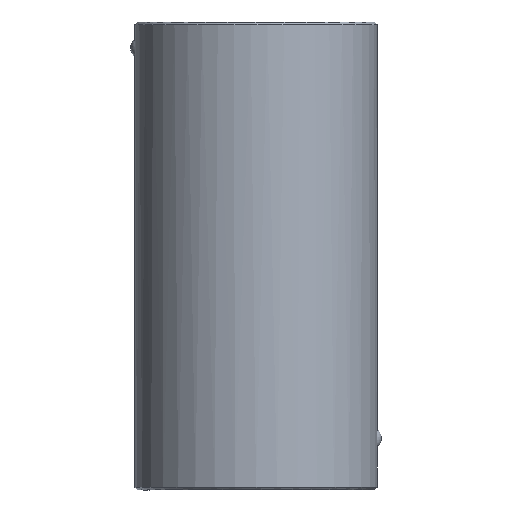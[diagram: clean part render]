
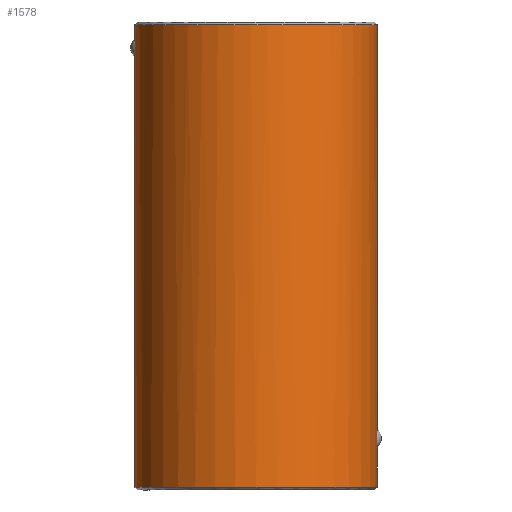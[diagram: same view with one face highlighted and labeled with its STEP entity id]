
A CAD part, front view. The second image highlights one B-rep face of the part: STEP entity #1578.
In plain terms, the highlighted cylindrical face has radius 14.5 mm (diameter 29 mm), a partial arc.
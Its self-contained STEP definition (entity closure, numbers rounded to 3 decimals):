
#1348=CARTESIAN_POINT('Vertex',(-14.5,0.,0.3)) ;
#1355=CARTESIAN_POINT('Vertex',(14.5,0.,0.3)) ;
#1358=CARTESIAN_POINT('Axis2P3D Location',(0.,0.,0.3)) ;
#1476=CARTESIAN_POINT('Axis2P3D Location',(0.,0.,56.)) ;
#1481=CARTESIAN_POINT('Line Origine',(14.5,0.,56.)) ;
#1485=CARTESIAN_POINT('Vertex',(14.5,0.,5.082)) ;
#1489=CARTESIAN_POINT('Control Point',(14.454,-1.158,6.201)) ;
#1490=CARTESIAN_POINT('Control Point',(14.454,-1.158,5.843)) ;
#1491=CARTESIAN_POINT('Control Point',(14.466,-1.009,5.481)) ;
#1492=CARTESIAN_POINT('Control Point',(14.489,-0.712,5.214)) ;
#1493=CARTESIAN_POINT('Control Point',(14.5,-0.358,5.082)) ;
#1494=CARTESIAN_POINT('Control Point',(14.5,0.,5.082)) ;
#1495=CARTESIAN_POINT('Vertex',(14.454,-1.158,6.201)) ;
#1499=CARTESIAN_POINT('Control Point',(14.5,0.,7.318)) ;
#1500=CARTESIAN_POINT('Control Point',(14.5,-0.358,7.318)) ;
#1501=CARTESIAN_POINT('Control Point',(14.489,-0.717,7.185)) ;
#1502=CARTESIAN_POINT('Control Point',(14.466,-1.009,6.916)) ;
#1503=CARTESIAN_POINT('Control Point',(14.454,-1.158,6.558)) ;
#1504=CARTESIAN_POINT('Control Point',(14.454,-1.158,6.201)) ;
#1505=CARTESIAN_POINT('Vertex',(14.5,0.,7.318)) ;
#1508=CARTESIAN_POINT('Line Origine',(14.5,0.,56.)) ;
#1512=CARTESIAN_POINT('Vertex',(14.5,0.,55.7)) ;
#1516=CARTESIAN_POINT('Control Point',(-14.5,0.,55.7)) ;
#1517=CARTESIAN_POINT('Control Point',(-14.5,-2.278,55.7)) ;
#1518=CARTESIAN_POINT('Control Point',(-14.053,-4.555,55.7)) ;
#1519=CARTESIAN_POINT('Control Point',(-13.158,-6.716,55.7)) ;
#1520=CARTESIAN_POINT('Control Point',(-10.569,-10.569,55.7)) ;
#1521=CARTESIAN_POINT('Control Point',(-6.716,-13.158,55.7)) ;
#1522=CARTESIAN_POINT('Control Point',(-4.555,-14.053,55.7)) ;
#1523=CARTESIAN_POINT('Control Point',(0.,-14.947,55.7)) ;
#1524=CARTESIAN_POINT('Control Point',(4.555,-14.053,55.7)) ;
#1525=CARTESIAN_POINT('Control Point',(6.716,-13.158,55.7)) ;
#1526=CARTESIAN_POINT('Control Point',(10.569,-10.569,55.7)) ;
#1527=CARTESIAN_POINT('Control Point',(13.158,-6.716,55.7)) ;
#1528=CARTESIAN_POINT('Control Point',(14.053,-4.555,55.7)) ;
#1529=CARTESIAN_POINT('Control Point',(14.5,-2.278,55.7)) ;
#1530=CARTESIAN_POINT('Control Point',(14.5,0.,55.7)) ;
#1531=CARTESIAN_POINT('Vertex',(-14.5,0.,55.7)) ;
#1534=CARTESIAN_POINT('Line Origine',(-14.5,0.,56.)) ;
#1538=CARTESIAN_POINT('Vertex',(-14.5,0.,54.018)) ;
#1542=CARTESIAN_POINT('Control Point',(-14.454,-1.158,52.899)) ;
#1543=CARTESIAN_POINT('Control Point',(-14.454,-1.158,53.257)) ;
#1544=CARTESIAN_POINT('Control Point',(-14.466,-1.009,53.619)) ;
#1545=CARTESIAN_POINT('Control Point',(-14.489,-0.712,53.886)) ;
#1546=CARTESIAN_POINT('Control Point',(-14.5,-0.358,54.018)) ;
#1547=CARTESIAN_POINT('Control Point',(-14.5,0.,54.018)) ;
#1548=CARTESIAN_POINT('Vertex',(-14.454,-1.158,52.899)) ;
#1552=CARTESIAN_POINT('Control Point',(-14.5,0.,51.782)) ;
#1553=CARTESIAN_POINT('Control Point',(-14.5,-0.358,51.782)) ;
#1554=CARTESIAN_POINT('Control Point',(-14.489,-0.717,51.915)) ;
#1555=CARTESIAN_POINT('Control Point',(-14.466,-1.009,52.184)) ;
#1556=CARTESIAN_POINT('Control Point',(-14.454,-1.158,52.542)) ;
#1557=CARTESIAN_POINT('Control Point',(-14.454,-1.158,52.899)) ;
#1558=CARTESIAN_POINT('Vertex',(-14.5,0.,51.782)) ;
#1561=CARTESIAN_POINT('Line Origine',(-14.5,0.,56.)) ;
#1359=DIRECTION('Axis2P3D Direction',(0.,-0.,1.)) ;
#1477=DIRECTION('Axis2P3D Direction',(0.,0.,-1.)) ;
#1478=DIRECTION('Axis2P3D XDirection',(1.,0.,0.)) ;
#1482=DIRECTION('Vector Direction',(0.,0.,-1.)) ;
#1509=DIRECTION('Vector Direction',(0.,0.,-1.)) ;
#1535=DIRECTION('Vector Direction',(0.,0.,-1.)) ;
#1562=DIRECTION('Vector Direction',(0.,0.,-1.)) ;
#1360=AXIS2_PLACEMENT_3D('Circle Axis2P3D',#1358,#1359,$) ;
#1479=AXIS2_PLACEMENT_3D('Cylinder Axis2P3D',#1476,#1477,#1478) ;
#1567=ORIENTED_EDGE('',*,*,#1487,.T.) ;
#1568=ORIENTED_EDGE('',*,*,#1497,.F.) ;
#1569=ORIENTED_EDGE('',*,*,#1507,.F.) ;
#1570=ORIENTED_EDGE('',*,*,#1514,.T.) ;
#1571=ORIENTED_EDGE('',*,*,#1533,.F.) ;
#1572=ORIENTED_EDGE('',*,*,#1540,.T.) ;
#1573=ORIENTED_EDGE('',*,*,#1550,.F.) ;
#1574=ORIENTED_EDGE('',*,*,#1560,.F.) ;
#1575=ORIENTED_EDGE('',*,*,#1565,.T.) ;
#1576=ORIENTED_EDGE('',*,*,#1362,.T.) ;
#1483=VECTOR('Line Direction',#1482,1.) ;
#1510=VECTOR('Line Direction',#1509,1.) ;
#1536=VECTOR('Line Direction',#1535,1.) ;
#1563=VECTOR('Line Direction',#1562,1.) ;
#1578=ADVANCED_FACE('730-24x56',(#1577),#1480,.T.) ;
#1488=B_SPLINE_CURVE_WITH_KNOTS('',5,(#1489,#1490,#1491,#1492,#1493,#1494),.UNSPECIFIED.,.F.,.U.,(6,6),(0.,2.538),.UNSPECIFIED.) ;
#1498=B_SPLINE_CURVE_WITH_KNOTS('',5,(#1499,#1500,#1501,#1502,#1503,#1504),.UNSPECIFIED.,.F.,.U.,(6,6),(0.,2.539),.UNSPECIFIED.) ;
#1515=B_SPLINE_CURVE_WITH_KNOTS('',5,(#1516,#1517,#1518,#1519,#1520,#1521,#1522,#1523,#1524,#1525,#1526,#1527,#1528,#1529,#1530),.UNSPECIFIED.,.F.,.U.,(6,3,3,3,6),(-22.777,-11.388,0.,11.388,22.777),.UNSPECIFIED.) ;
#1541=B_SPLINE_CURVE_WITH_KNOTS('',5,(#1542,#1543,#1544,#1545,#1546,#1547),.UNSPECIFIED.,.F.,.U.,(6,6),(0.,2.538),.UNSPECIFIED.) ;
#1551=B_SPLINE_CURVE_WITH_KNOTS('',5,(#1552,#1553,#1554,#1555,#1556,#1557),.UNSPECIFIED.,.F.,.U.,(6,6),(0.,2.539),.UNSPECIFIED.) ;
#1361=CIRCLE('generated circle',#1360,14.5) ;
#1480=CYLINDRICAL_SURFACE('generated cylinder',#1479,14.5) ;
#1362=EDGE_CURVE('',#1349,#1356,#1361,.T.) ;
#1487=EDGE_CURVE('',#1356,#1486,#1484,.F.) ;
#1497=EDGE_CURVE('',#1496,#1486,#1488,.T.) ;
#1507=EDGE_CURVE('',#1506,#1496,#1498,.T.) ;
#1514=EDGE_CURVE('',#1506,#1513,#1511,.F.) ;
#1533=EDGE_CURVE('',#1532,#1513,#1515,.T.) ;
#1540=EDGE_CURVE('',#1532,#1539,#1537,.T.) ;
#1550=EDGE_CURVE('',#1549,#1539,#1541,.T.) ;
#1560=EDGE_CURVE('',#1559,#1549,#1551,.T.) ;
#1565=EDGE_CURVE('',#1559,#1349,#1564,.T.) ;
#1566=EDGE_LOOP('',(#1567,#1568,#1569,#1570,#1571,#1572,#1573,#1574,#1575,#1576)) ;
#1577=FACE_OUTER_BOUND('',#1566,.T.) ;
#1484=LINE('Line',#1481,#1483) ;
#1511=LINE('Line',#1508,#1510) ;
#1537=LINE('Line',#1534,#1536) ;
#1564=LINE('Line',#1561,#1563) ;
#1349=VERTEX_POINT('',#1348) ;
#1356=VERTEX_POINT('',#1355) ;
#1486=VERTEX_POINT('',#1485) ;
#1496=VERTEX_POINT('',#1495) ;
#1506=VERTEX_POINT('',#1505) ;
#1513=VERTEX_POINT('',#1512) ;
#1532=VERTEX_POINT('',#1531) ;
#1539=VERTEX_POINT('',#1538) ;
#1549=VERTEX_POINT('',#1548) ;
#1559=VERTEX_POINT('',#1558) ;
